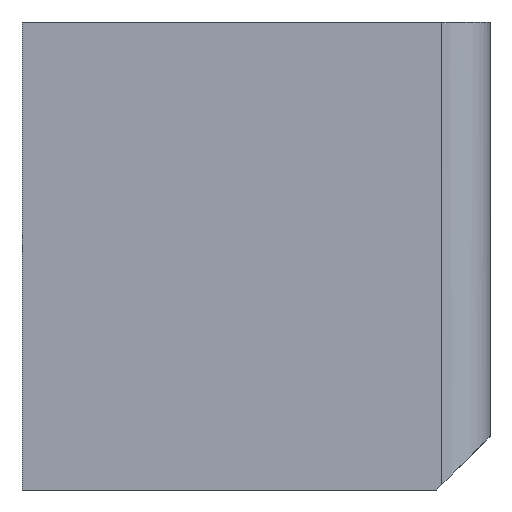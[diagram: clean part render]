
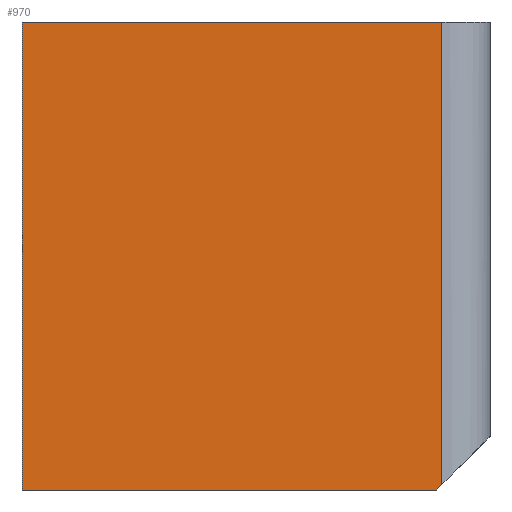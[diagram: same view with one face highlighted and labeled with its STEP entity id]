
A CAD part, left-side view. The second image highlights one B-rep face of the part: STEP entity #970.
In plain terms, the highlighted planar face has unit normal (-1, 0, 0).
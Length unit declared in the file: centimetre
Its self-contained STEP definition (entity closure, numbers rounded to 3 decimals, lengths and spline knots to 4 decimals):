
#38 = LINE ( 'NONE', #239, #595 ) ;
#58 = DIRECTION ( 'NONE',  ( 0., -1., 0. ) ) ;
#73 = ORIENTED_EDGE ( 'NONE', *, *, #114, .F. ) ;
#114 = EDGE_CURVE ( 'NONE', #1272, #382, #38, .T. ) ;
#122 = CARTESIAN_POINT ( 'NONE',  ( 0., 0., 114.5372 ) ) ;
#128 = CARTESIAN_POINT ( 'NONE',  ( 0., 102.9346, 1000. ) ) ;
#141 = EDGE_CURVE ( 'NONE', #1272, #1226, #775, .T. ) ;
#200 = FACE_OUTER_BOUND ( 'NONE', #751, .T. ) ;
#237 = EDGE_CURVE ( 'NONE', #690, #1160, #1266, .T. ) ;
#239 = CARTESIAN_POINT ( 'NONE',  ( 0., 1000., 1000. ) ) ;
#354 = DIRECTION ( 'NONE',  ( 0., 0., -1. ) ) ;
#382 = VERTEX_POINT ( 'NONE', #128 ) ;
#458 = DIRECTION ( 'NONE',  ( 0., -1., 0. ) ) ;
#548 = EDGE_CURVE ( 'NONE', #1226, #690, #712, .T. ) ;
#564 = AXIS2_PLACEMENT_3D ( 'NONE', #624, #832, #1249 ) ;
#595 = VECTOR ( 'NONE', #458, 100. ) ;
#616 = CARTESIAN_POINT ( 'NONE',  ( 0., 102.9346, 1000. ) ) ;
#624 = CARTESIAN_POINT ( 'NONE',  ( 0., 1000., 1000. ) ) ;
#629 = EDGE_CURVE ( 'NONE', #1160, #382, #1244, .T. ) ;
#682 = CARTESIAN_POINT ( 'NONE',  ( 0., 1000., 1000. ) ) ;
#690 = VERTEX_POINT ( 'NONE', #731 ) ;
#694 = CARTESIAN_POINT ( 'NONE',  ( 0., 102.9346, 11.6026 ) ) ;
#712 = LINE ( 'NONE', #1230, #819 ) ;
#731 = CARTESIAN_POINT ( 'NONE',  ( 0., 114.5372, 0. ) ) ;
#751 = EDGE_LOOP ( 'NONE', ( #907, #1358, #856, #73, #963 ) ) ;
#775 = LINE ( 'NONE', #781, #1125 ) ;
#781 = CARTESIAN_POINT ( 'NONE',  ( 0., 1000., 1000. ) ) ;
#819 = VECTOR ( 'NONE', #58, 100. ) ;
#832 = DIRECTION ( 'NONE',  ( 1., 0., 0. ) ) ;
#856 = ORIENTED_EDGE ( 'NONE', *, *, #629, .T. ) ;
#907 = ORIENTED_EDGE ( 'NONE', *, *, #548, .T. ) ;
#943 = DIRECTION ( 'NONE',  ( 0., 0., 1. ) ) ;
#963 = ORIENTED_EDGE ( 'NONE', *, *, #141, .T. ) ;
#970 = ADVANCED_FACE ( 'NONE', ( #200 ), #1152, .F. ) ;
#1055 = DIRECTION ( 'NONE',  ( 0., -0.707, 0.707 ) ) ;
#1101 = CARTESIAN_POINT ( 'NONE',  ( 0., 1000., 0. ) ) ;
#1125 = VECTOR ( 'NONE', #354, 100. ) ;
#1152 = PLANE ( 'NONE',  #564 ) ;
#1160 = VERTEX_POINT ( 'NONE', #694 ) ;
#1179 = VECTOR ( 'NONE', #943, 100. ) ;
#1226 = VERTEX_POINT ( 'NONE', #1101 ) ;
#1230 = CARTESIAN_POINT ( 'NONE',  ( 0., 1000., 0. ) ) ;
#1244 = LINE ( 'NONE', #616, #1179 ) ;
#1249 = DIRECTION ( 'NONE',  ( 0., 0., -1. ) ) ;
#1266 = LINE ( 'NONE', #122, #1302 ) ;
#1272 = VERTEX_POINT ( 'NONE', #682 ) ;
#1302 = VECTOR ( 'NONE', #1055, 100. ) ;
#1358 = ORIENTED_EDGE ( 'NONE', *, *, #237, .T. ) ;
